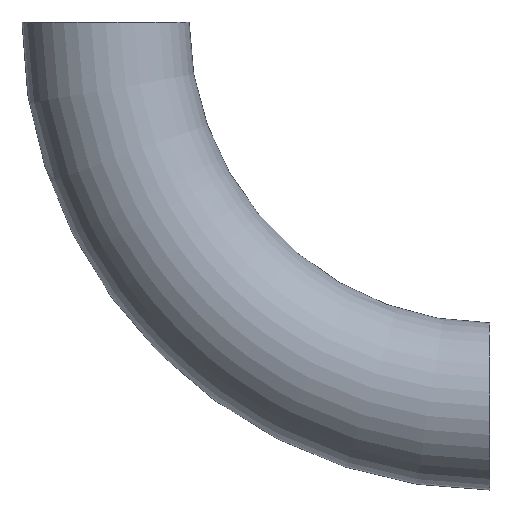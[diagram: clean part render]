
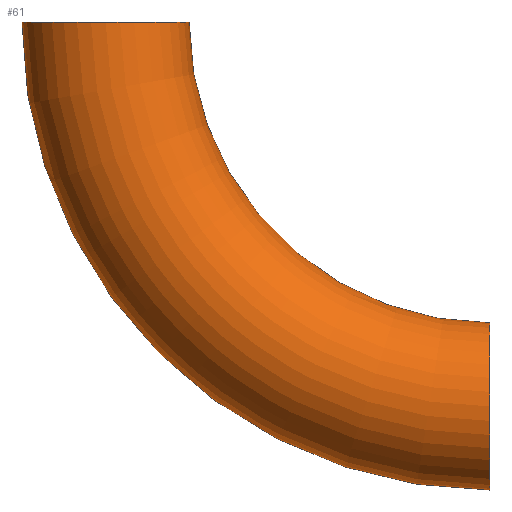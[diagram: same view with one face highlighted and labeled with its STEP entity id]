
A CAD part, front view. The second image highlights one B-rep face of the part: STEP entity #61.
In plain terms, the highlighted toroidal (fillet/blend) face has major radius 175 mm and minor radius 38.05 mm.
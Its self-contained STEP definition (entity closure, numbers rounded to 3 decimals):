
#7 = CIRCLE ( 'NONE', #104, 213.05 ) ;
#17 = CIRCLE ( 'NONE', #46, 136.95 ) ;
#20 = DIRECTION ( 'NONE',  ( 0., 1., 0. ) ) ;
#23 = EDGE_CURVE ( 'NONE', #146, #129, #7, .T. ) ;
#30 = AXIS2_PLACEMENT_3D ( 'NONE', #230, #70, #96 ) ;
#35 = DIRECTION ( 'NONE',  ( -1., 0., 0. ) ) ;
#41 = EDGE_CURVE ( 'NONE', #129, #92, #214, .T. ) ;
#46 = AXIS2_PLACEMENT_3D ( 'NONE', #158, #20, #159 ) ;
#47 = EDGE_CURVE ( 'NONE', #146, #68, #174, .T. ) ;
#49 = CARTESIAN_POINT ( 'NONE',  ( 0., 0., 0. ) ) ;
#61 = ADVANCED_FACE ( 'NONE', ( #114 ), #72, .T. ) ;
#63 = ORIENTED_EDGE ( 'NONE', *, *, #47, .T. ) ;
#68 = VERTEX_POINT ( 'NONE', #75 ) ;
#70 = DIRECTION ( 'NONE',  ( 0., 1., 0. ) ) ;
#72 = TOROIDAL_SURFACE ( 'NONE', #30, 175., 38.05 ) ;
#75 = CARTESIAN_POINT ( 'NONE',  ( 0., 0., -136.95 ) ) ;
#88 = EDGE_LOOP ( 'NONE', ( #204, #63, #147, #242 ) ) ;
#91 = EDGE_CURVE ( 'NONE', #68, #92, #17, .T. ) ;
#92 = VERTEX_POINT ( 'NONE', #138 ) ;
#96 = DIRECTION ( 'NONE',  ( 0., 0., 1. ) ) ;
#104 = AXIS2_PLACEMENT_3D ( 'NONE', #49, #243, #151 ) ;
#114 = FACE_OUTER_BOUND ( 'NONE', #88, .T. ) ;
#116 = CARTESIAN_POINT ( 'NONE',  ( -175., 0., 0. ) ) ;
#120 = CARTESIAN_POINT ( 'NONE',  ( 0., 0., -213.05 ) ) ;
#129 = VERTEX_POINT ( 'NONE', #216 ) ;
#138 = CARTESIAN_POINT ( 'NONE',  ( -136.95, 0., 0. ) ) ;
#146 = VERTEX_POINT ( 'NONE', #120 ) ;
#147 = ORIENTED_EDGE ( 'NONE', *, *, #91, .T. ) ;
#148 = AXIS2_PLACEMENT_3D ( 'NONE', #116, #187, #246 ) ;
#151 = DIRECTION ( 'NONE',  ( 0., 0., 1. ) ) ;
#154 = DIRECTION ( 'NONE',  ( 0., 0., 1. ) ) ;
#158 = CARTESIAN_POINT ( 'NONE',  ( 0., 0., 0. ) ) ;
#159 = DIRECTION ( 'NONE',  ( 0., 0., 1. ) ) ;
#174 = CIRCLE ( 'NONE', #205, 38.05 ) ;
#187 = DIRECTION ( 'NONE',  ( 0., 0., 1. ) ) ;
#204 = ORIENTED_EDGE ( 'NONE', *, *, #23, .F. ) ;
#205 = AXIS2_PLACEMENT_3D ( 'NONE', #249, #35, #154 ) ;
#214 = CIRCLE ( 'NONE', #148, 38.05 ) ;
#216 = CARTESIAN_POINT ( 'NONE',  ( -213.05, 0., 0. ) ) ;
#230 = CARTESIAN_POINT ( 'NONE',  ( 0., 0., 0. ) ) ;
#242 = ORIENTED_EDGE ( 'NONE', *, *, #41, .F. ) ;
#243 = DIRECTION ( 'NONE',  ( 0., 1., 0. ) ) ;
#246 = DIRECTION ( 'NONE',  ( 1., 0., 0. ) ) ;
#249 = CARTESIAN_POINT ( 'NONE',  ( 0., 0., -175. ) ) ;
